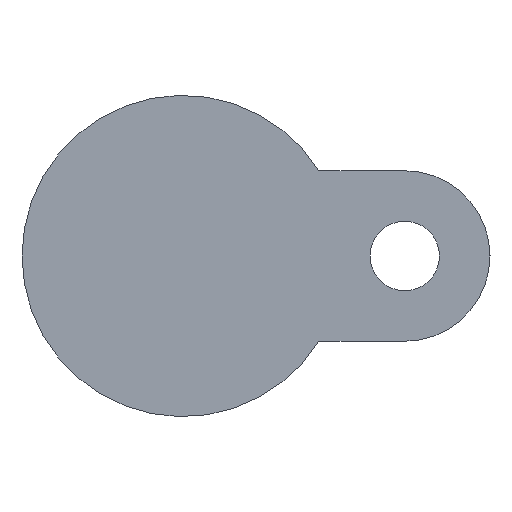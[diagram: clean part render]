
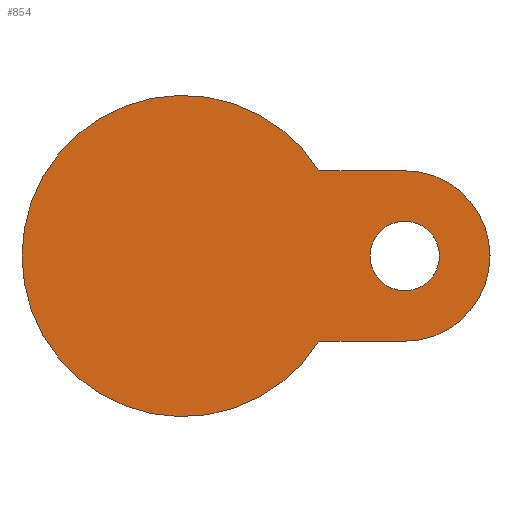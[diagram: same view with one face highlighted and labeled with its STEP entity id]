
A CAD part, front view. The second image highlights one B-rep face of the part: STEP entity #854.
In plain terms, the highlighted planar face has unit normal (0, -1, 0).
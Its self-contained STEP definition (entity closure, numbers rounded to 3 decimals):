
#16 = EDGE_CURVE ( 'NONE', #218, #1273, #597, .T. ) ;
#56 = ORIENTED_EDGE ( 'NONE', *, *, #815, .T. ) ;
#68 = ORIENTED_EDGE ( 'NONE', *, *, #16, .F. ) ;
#106 = CARTESIAN_POINT ( 'NONE',  ( 56., -23., 0. ) ) ;
#192 = CIRCLE ( 'NONE', #505, 40.5 ) ;
#206 = DIRECTION ( 'NONE',  ( -1., 0., 0. ) ) ;
#218 = VERTEX_POINT ( 'NONE', #426 ) ;
#238 = AXIS2_PLACEMENT_3D ( 'NONE', #1489, #438, #868 ) ;
#286 = VERTEX_POINT ( 'NONE', #729 ) ;
#315 = FACE_OUTER_BOUND ( 'NONE', #1356, .T. ) ;
#336 = PLANE ( 'NONE',  #652 ) ;
#370 = EDGE_CURVE ( 'NONE', #1273, #1315, #516, .T. ) ;
#389 = CARTESIAN_POINT ( 'NONE',  ( 0., -23., 0. ) ) ;
#422 = DIRECTION ( 'NONE',  ( 1., 0., 0. ) ) ;
#426 = CARTESIAN_POINT ( 'NONE',  ( 56., -23., 21.5 ) ) ;
#430 = CARTESIAN_POINT ( 'NONE',  ( 64.75, -23., 0. ) ) ;
#438 = DIRECTION ( 'NONE',  ( 0., 1., 0. ) ) ;
#453 = LINE ( 'NONE', #544, #727 ) ;
#491 = EDGE_LOOP ( 'NONE', ( #694, #56 ) ) ;
#505 = AXIS2_PLACEMENT_3D ( 'NONE', #389, #855, #1310 ) ;
#516 = LINE ( 'NONE', #1337, #1396 ) ;
#544 = CARTESIAN_POINT ( 'NONE',  ( 30.5, -23., 21.5 ) ) ;
#597 = CIRCLE ( 'NONE', #1198, 21.5 ) ;
#652 = AXIS2_PLACEMENT_3D ( 'NONE', #771, #1007, #422 ) ;
#675 = FACE_BOUND ( 'NONE', #491, .T. ) ;
#694 = ORIENTED_EDGE ( 'NONE', *, *, #1284, .T. ) ;
#721 = CIRCLE ( 'NONE', #936, 8.75 ) ;
#727 = VECTOR ( 'NONE', #897, 1000. ) ;
#729 = CARTESIAN_POINT ( 'NONE',  ( 47.25, -23., 0. ) ) ;
#771 = CARTESIAN_POINT ( 'NONE',  ( 40.5, -23., 0. ) ) ;
#815 = EDGE_CURVE ( 'NONE', #1266, #286, #721, .T. ) ;
#828 = ORIENTED_EDGE ( 'NONE', *, *, #836, .F. ) ;
#836 = EDGE_CURVE ( 'NONE', #1081, #218, #453, .T. ) ;
#844 = ORIENTED_EDGE ( 'NONE', *, *, #1170, .T. ) ;
#854 = ADVANCED_FACE ( 'NONE', ( #675, #315 ), #336, .T. ) ;
#855 = DIRECTION ( 'NONE',  ( 0., -1., 0. ) ) ;
#868 = DIRECTION ( 'NONE',  ( -1., 0., 0. ) ) ;
#891 = ORIENTED_EDGE ( 'NONE', *, *, #370, .F. ) ;
#897 = DIRECTION ( 'NONE',  ( 1., 0., 0. ) ) ;
#936 = AXIS2_PLACEMENT_3D ( 'NONE', #106, #1120, #206 ) ;
#1007 = DIRECTION ( 'NONE',  ( 0., -1., 0. ) ) ;
#1009 = CARTESIAN_POINT ( 'NONE',  ( 56., -23., -21.5 ) ) ;
#1012 = CIRCLE ( 'NONE', #238, 8.75 ) ;
#1027 = CARTESIAN_POINT ( 'NONE',  ( 34.322, -23., -21.5 ) ) ;
#1050 = DIRECTION ( 'NONE',  ( 0., 1., 0. ) ) ;
#1081 = VERTEX_POINT ( 'NONE', #1154 ) ;
#1120 = DIRECTION ( 'NONE',  ( 0., 1., 0. ) ) ;
#1154 = CARTESIAN_POINT ( 'NONE',  ( 34.322, -23., 21.5 ) ) ;
#1168 = DIRECTION ( 'NONE',  ( 1., 0., 0. ) ) ;
#1170 = EDGE_CURVE ( 'NONE', #1081, #1315, #192, .T. ) ;
#1186 = CARTESIAN_POINT ( 'NONE',  ( 56., -23., 0. ) ) ;
#1198 = AXIS2_PLACEMENT_3D ( 'NONE', #1186, #1050, #1168 ) ;
#1218 = DIRECTION ( 'NONE',  ( -1., 0., 0. ) ) ;
#1266 = VERTEX_POINT ( 'NONE', #430 ) ;
#1273 = VERTEX_POINT ( 'NONE', #1009 ) ;
#1284 = EDGE_CURVE ( 'NONE', #286, #1266, #1012, .T. ) ;
#1310 = DIRECTION ( 'NONE',  ( 1., 0., 0. ) ) ;
#1315 = VERTEX_POINT ( 'NONE', #1027 ) ;
#1337 = CARTESIAN_POINT ( 'NONE',  ( 30.5, -23., -21.5 ) ) ;
#1356 = EDGE_LOOP ( 'NONE', ( #844, #891, #68, #828 ) ) ;
#1396 = VECTOR ( 'NONE', #1218, 1000. ) ;
#1489 = CARTESIAN_POINT ( 'NONE',  ( 56., -23., 0. ) ) ;
